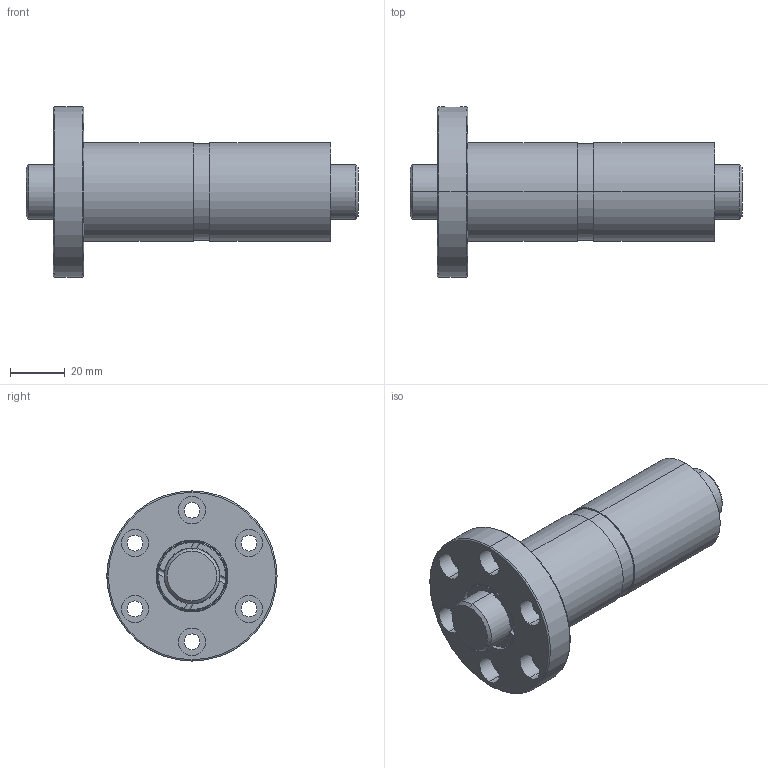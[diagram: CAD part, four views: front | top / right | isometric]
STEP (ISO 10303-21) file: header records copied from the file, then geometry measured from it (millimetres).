
FILE_DESCRIPTION (( 'STEP AP203' ), '1' );
FILE_NAME ('DFZR02005T4N-C.STEP', '2020-06-18T01:19:36', ( '' ), ( '' ), 'SwSTEP 2.0', 'SolidWorks 2013', '' );
FILE_SCHEMA (( 'CONFIG_CONTROL_DESIGN' ));
Length unit declared in the file: millimetre
Products named in the file (1): DFZR02005T4N-C
Bounding box: 121 x 62 x 62 mm (x, y, z)
Volume: 121548.8 mm3; surface area: 36473.7 mm2
Topology: 2 solids, 2 shells, 132 faces, 324 edges, 210 vertices
Faces by surface type: cylinder 74, plane 30, torus 24, cone 4
Entity records: 4785 total; most frequent: CARTESIAN_POINT 1483, DIRECTION 720, ORIENTED_EDGE 648, EDGE_CURVE 324, AXIS2_PLACEMENT_3D 319, VERTEX_POINT 210, CIRCLE 186, EDGE_LOOP 164
